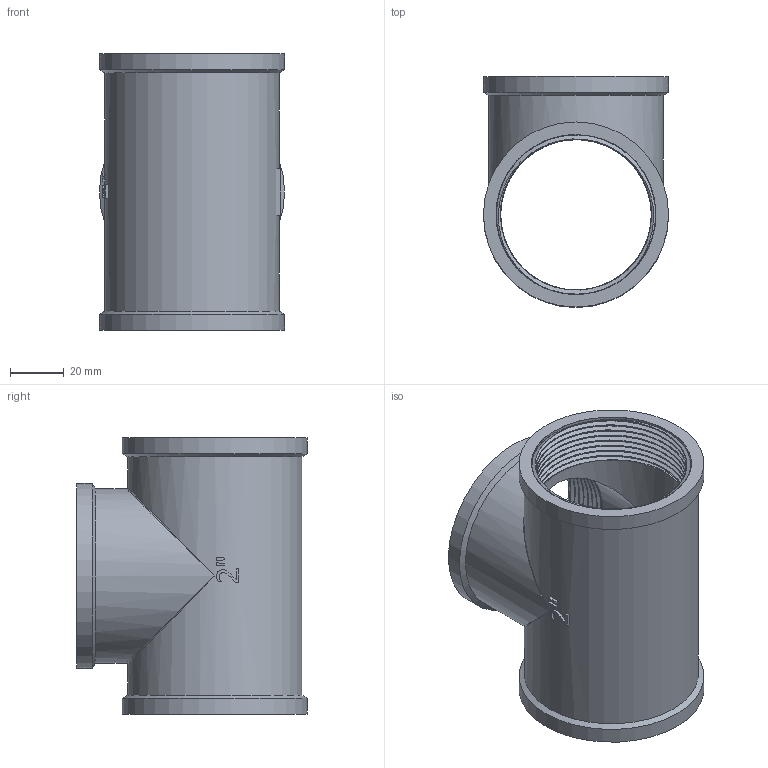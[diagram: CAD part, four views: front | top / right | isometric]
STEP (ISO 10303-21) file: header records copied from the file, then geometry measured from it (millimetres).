
FILE_DESCRIPTION(/* description */ (''),/* implementation_level */ '2;1');
FILE_NAME(/* name */ 'C:\Users\Doom\Desktop\Фадотех\Резьба\T09 18.03.2020\T09 18.03.2020.stp',/* time_stamp */ '2022-01-20T00:24:24+02:00',/* author */ ('Doom'),/* organization */ (''),/* preprocessor_version */ 'ST-DEVELOPER v18',/* originating_system */ 'Autodesk Inventor 2020',/* authorisation */ '');
FILE_SCHEMA (('AUTOMOTIVE_DESIGN { 1 0 10303 214 3 1 1 }'));
Length unit declared in the file: millimetre
Products named in the file (1): T09 18.03.2020
Bounding box: 69 x 86 x 103 mm (x, y, z)
Volume: 105862.7 mm3; surface area: 80695.5 mm2
Topology: 4 solids, 4 shells, 131 faces, 374 edges, 250 vertices
Faces by surface type: plane 47, cylinder 46, bspline 35, cone 3
Full cylindrical faces by diameter (mm): 56.176 x24, 56.65 x2, 59.6 x6, 65 x2, 69 x3
Entity records: 19084 total; most frequent: CARTESIAN_POINT 15970, ORIENTED_EDGE 720, DIRECTION 497, EDGE_CURVE 360, VERTEX_POINT 244, AXIS2_PLACEMENT_3D 179, EDGE_LOOP 148, B_SPLINE_CURVE_WITH_KNOTS 139
